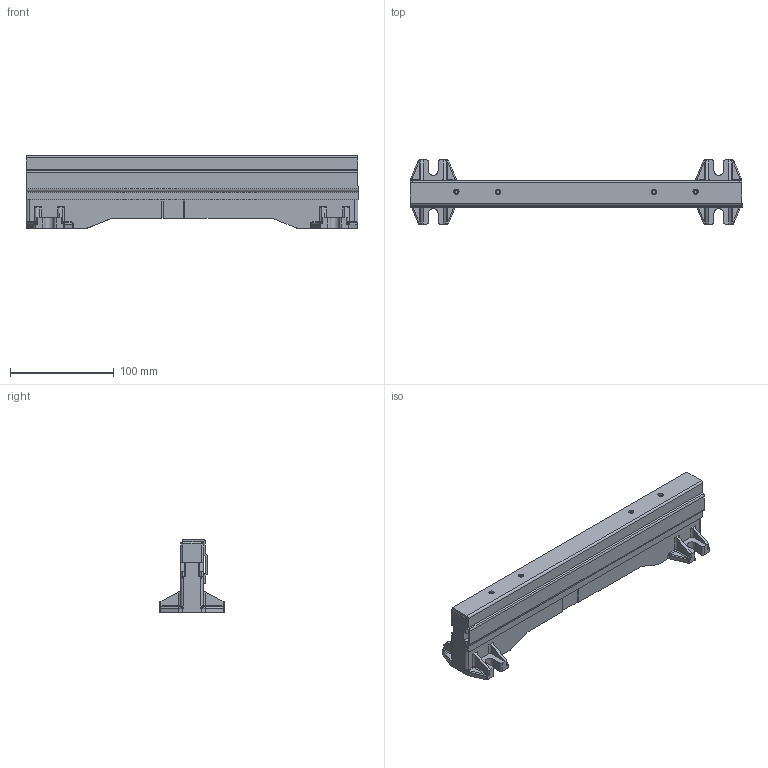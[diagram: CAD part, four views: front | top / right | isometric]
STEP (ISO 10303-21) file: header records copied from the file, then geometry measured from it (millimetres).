
FILE_DESCRIPTION (( 'STEP AP214' ), '1' );
FILE_NAME ('52479.STEP', '2023-08-25T02:40:32', ( 'Windows User' ), ( 'P R C' ), 'SwSTEP 2.0', 'SolidWorks 2019', '' );
FILE_SCHEMA (( 'AUTOMOTIVE_DESIGN' ));
Length unit declared in the file: millimetre
Products named in the file (1): 52479
Bounding box: 320 x 61.8 x 69.7 mm (x, y, z)
Volume: 405546.7 mm3; surface area: 161221.2 mm2
Topology: 16 solids, 26 shells, 1536 faces, 4074 edges, 2615 vertices
Faces by surface type: plane 734, cylinder 502, bspline 224, cone 76
Full cylindrical faces by diameter (mm): 6 x116
Entity records: 67076 total; most frequent: CARTESIAN_POINT 30847, ORIENTED_EDGE 8076, DIRECTION 6545, EDGE_CURVE 4038, VERTEX_POINT 2615, VECTOR 2383, LINE 2383, AXIS2_PLACEMENT_3D 2081
